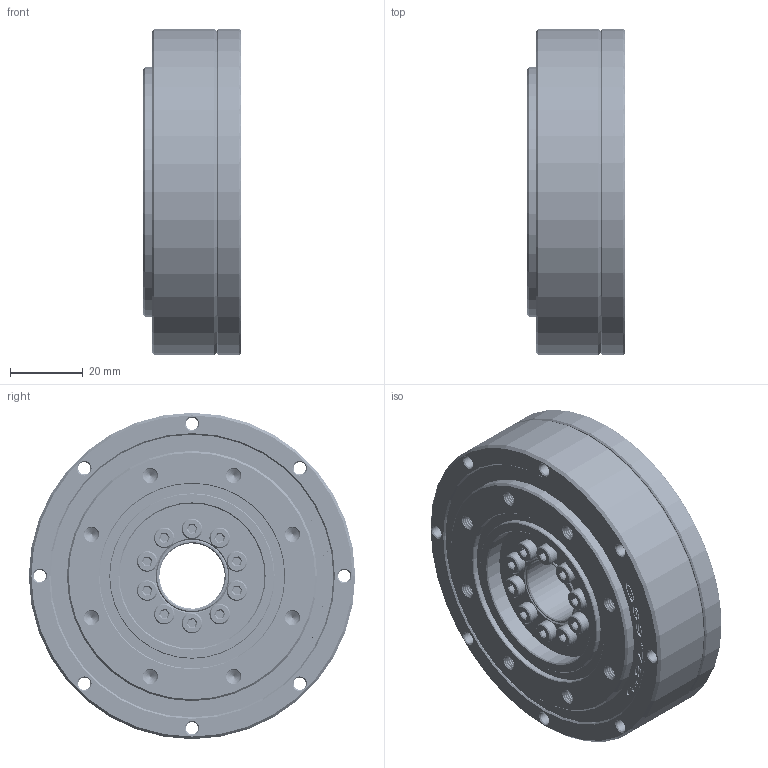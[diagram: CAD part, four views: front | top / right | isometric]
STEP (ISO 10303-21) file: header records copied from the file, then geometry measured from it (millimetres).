
FILE_DESCRIPTION(/* description */ (''),/* implementation_level */ '2;1');
FILE_NAME(/* name */ 'XBZ20成品图.prt.stp',/* time_stamp */ '2022-07-23T08:57:55+08:00',/* author */ (''),/* organization */ (''),/* preprocessor_version */ 'ST-DEVELOPER v16',/* originating_system */ 'SIEMENS PLM Software NX 10.0',/* authorisation */ '');
FILE_SCHEMA (('CONFIG_CONTROL_DESIGN'));
Length unit declared in the file: millimetre
Products named in the file (13): 20-\X2\67D460278F74627F4FDD630167B6FF0865E568078D858584
FF09\X0\; M3X12; M2X8; XBD20-3-1凸轮; XBZ20-1钢轮; XBZ20-2-1柔轮压板; XBZ20-2柔轮; M2X6; XBZ20-4-1-1销子; G69785; XBZ20-4-1内芯; 20-柔性轴承（日标超薄）_MOD
EL; XBZ20成品图
Assembly tree (24 placements, depth 3):
  XBZ20成品图
    XBZ20-4-1内芯
    G69785
    XBZ20-4-1-1销子
    M2X6
    XBZ20-2柔轮
    XBZ20-2-1柔轮压板
    XBZ20-1钢轮
    20-柔性轴承（日标超薄）_MOD
EL
      20-\X2\67D460278F74627F4FDD630167B6FF0865E568078D858584
FF09\X0\
    XBD20-3-1凸轮
    M2X8  x4
    M3X12  x10
Bounding box: 26.8 x 90 x 90 mm (x, y, z)
Volume: 117493.7 mm3; surface area: 76268.9 mm2
Topology: 47 solids, 47 shells, 1300 faces, 3235 edges, 2048 vertices
Faces by surface type: plane 452, cylinder 363, cone 302, bspline 112, extrusion 42, sphere 21, torus 8
Full cylindrical faces by diameter (mm): 2.5 x1, 3.5 x20, 4 x5, 4.5 x1, 5.68 x10, 18 x1, 20 x4, 32 x2, 34.5 x1, 35.56 x1, 37 x1, 38 x1, 38.2 x2, 39.7 x1, 40 x1, 42 x1, 44.4 x1, 45.6 x1, 46 x2, 49.073 x2, 51 x1, 51.7 x1, 53.2 x1, 62.2 x1, 69 x2, 71 x2, 72 x1, 76 x1, 78 x1
Entity records: 142707 total; most frequent: CARTESIAN_POINT 120055, ORIENTED_EDGE 4290, DIRECTION 3826, EDGE_CURVE 2145, AXIS2_PLACEMENT_3D 1515, VERTEX_POINT 1489, EDGE_LOOP 1302, ADVANCED_FACE 964
